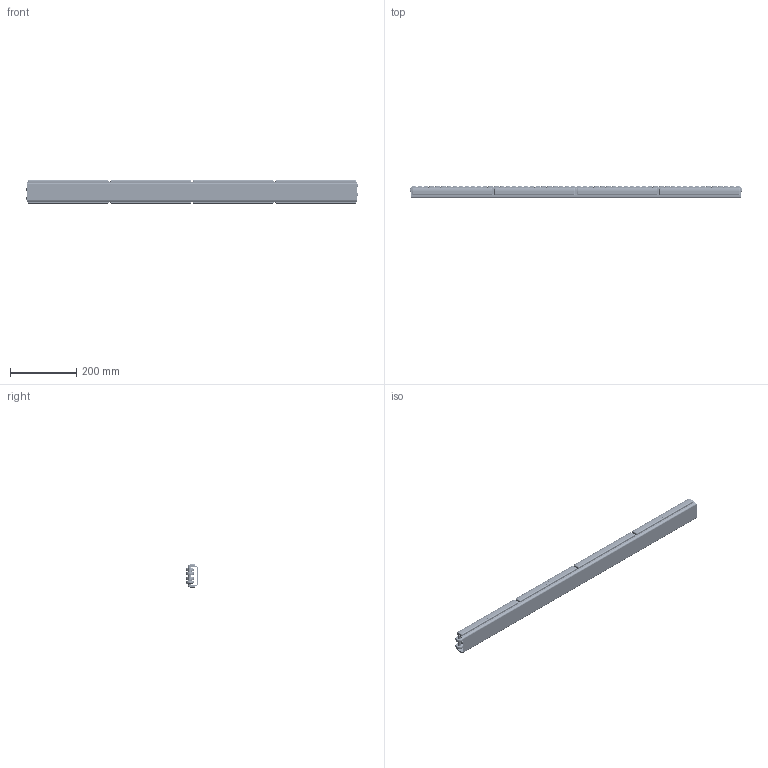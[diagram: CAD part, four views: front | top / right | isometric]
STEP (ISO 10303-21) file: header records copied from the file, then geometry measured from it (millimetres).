
FILE_DESCRIPTION(('STEP AP214'),'1');
FILE_NAME('P35401_01','2017-02-28T07:46:08',('dentellad'),(' '),'Spatial InterOp 3D',' ',' ');
FILE_SCHEMA(('automotive_design'));
Length unit declared in the file: millimetre
Products named in the file (121): 1; 2; 3; 4; 5; 6; 7; 8; 9; 10; 11; 12; 13; 14; 15; 16; 17; 18; 19; 20; 21; 22; 23; 24; 25; 26; 27; 28; 29; 30; 31; 32; 33; 34; 35; 36; 37; 38; 39; 40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
Bounding box: 1006.02 x 37.16 x 71 mm (x, y, z)
Volume: 1041686 mm3; surface area: 572012.3 mm2
Topology: 121 solids, 121 shells, 7542 faces, 19420 edges, 12184 vertices
Faces by surface type: plane 3834, torus 1920, cone 896, sphere 448, cylinder 412, bspline 32
Entity records: 395252 total; most frequent: CARTESIAN_POINT 45607, DIRECTION 41834, ORIENTED_EDGE 38840, STYLED_ITEM 27083, PRESENTATION_STYLE_ASSIGNMENT 27083, COLOUR_RGB 27083, EDGE_CURVE 19420, CURVE_STYLE 19420
